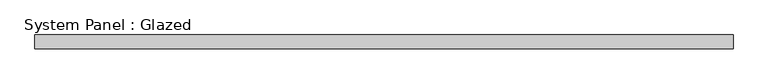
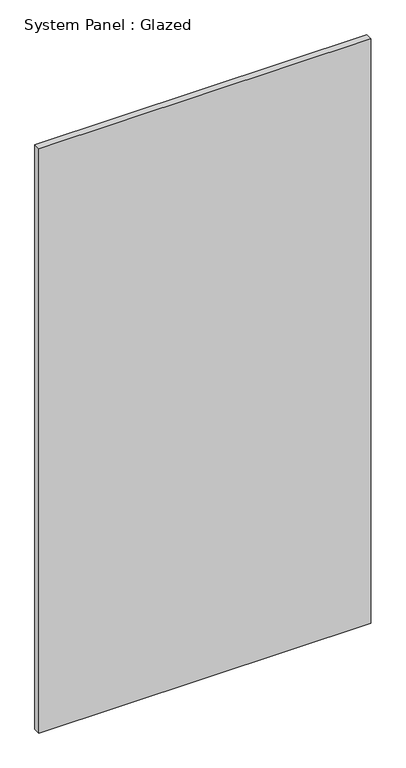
"""IFC4 building model written with IfcOpenShell, lengths in millimetres: plate geometry, System Panel : Glazed."""

from ifc_helpers import new_model, si_unit, origin, origin_with_axes, place, context, project, spatial, polyline, outline, extrude, source, transform, mapped, element, save


def system_panel_glazed_8cd64f8d(model_context):
    return source(origin(), model_context, "Body", "SweptSolid", [
        extrude(outline(polyline([(638.175, 19.05), (-638.175, 19.05), (-638.175, 44.45), (638.175, 44.45), (638.175, 19.05)])), origin_with_axes(), (0.0, 0.0, 1.0), 2374.9),
    ])


if __name__ == "__main__":
    model = new_model("IFC4")
    model_context = context("Model", 3, world=origin())
    ifc_project = project(units=[si_unit("LENGTHUNIT", "METRE", prefix="MILLI")], contexts=[model_context])
    site = spatial("IfcSite", under=ifc_project)
    building = spatial("IfcBuilding", under=site)
    placement = place(None, origin())
    system_panel_glazed_shape = system_panel_glazed_8cd64f8d(model_context)
    element("IfcPlate", 1, ObjectType="System Panel : Glazed", at=placement, inside=building, context=model_context, shape_type="MappedRepresentation", body=[
        mapped(system_panel_glazed_shape, transform((0.0, 0.0, 0.0), x_axis=(1.0, 0.0, 0.0), y_axis=(0.0, 1.0, 0.0), z_axis=(0.0, 0.0, 1.0))),
    ])
    save(model, "model.ifc")
